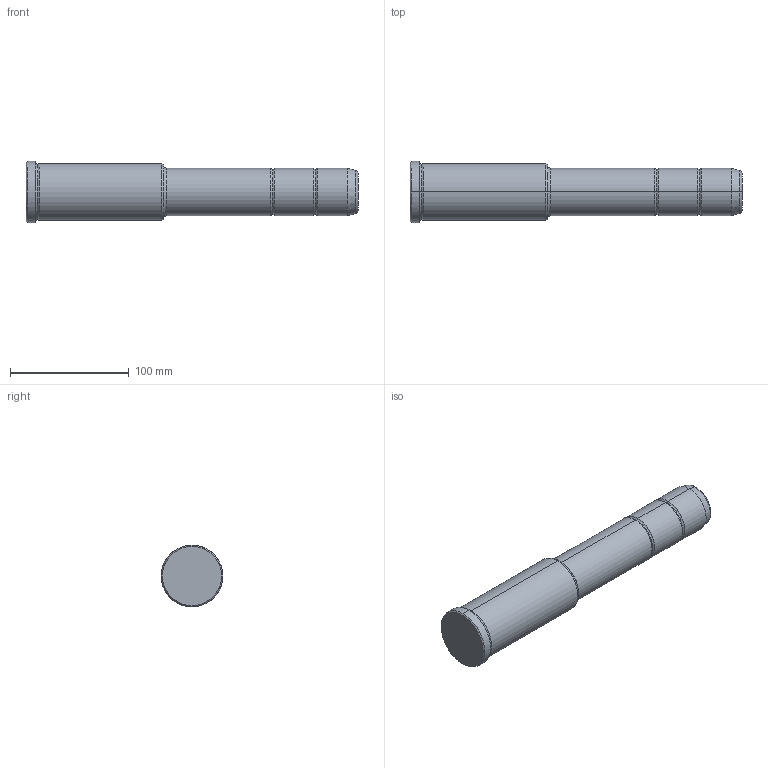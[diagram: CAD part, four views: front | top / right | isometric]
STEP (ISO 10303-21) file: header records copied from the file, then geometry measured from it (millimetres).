
FILE_DESCRIPTION(('CATIA V5 STEP Exchange'),'2;1');
FILE_NAME('C:\Users\Utente\Desktop\IO LAVORO\3D X SITO CF\X SITO\PLASTICA\351\351-40X116X280.stp','2021-10-07T13:12:39+00:00',('none'),('none'),'CATIA Version 5 Release 20 GA (IN-10)','CATIA V5 STEP AP203','none');
FILE_SCHEMA(('CONFIG_CONTROL_DESIGN'));
Length unit declared in the file: millimetre
Products named in the file (1): 351-40X116X280
Bounding box: 280 x 52 x 52 mm (x, y, z)
Volume: 416326.6 mm3; surface area: 41897.1 mm2
Topology: 1 solids, 1 shells, 36 faces, 102 edges, 70 vertices
Faces by surface type: torus 16, cylinder 10, cone 6, plane 4
Entity records: 1292 total; most frequent: CARTESIAN_POINT 321, ORIENTED_EDGE 204, DIRECTION 166, AXIS2_PLACEMENT_3D 115, EDGE_CURVE 102, CIRCLE 78, VERTEX_POINT 70, EDGE_LOOP 38
